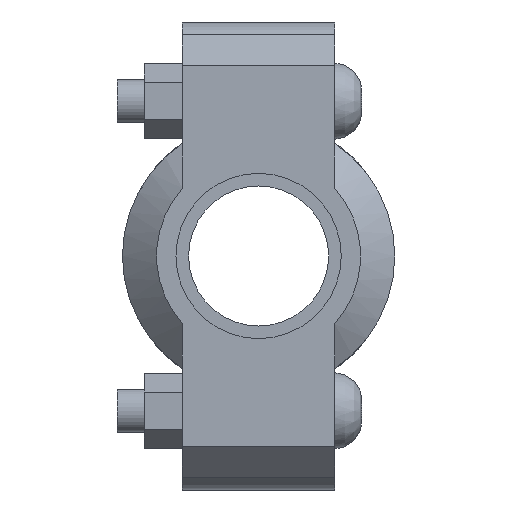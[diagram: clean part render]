
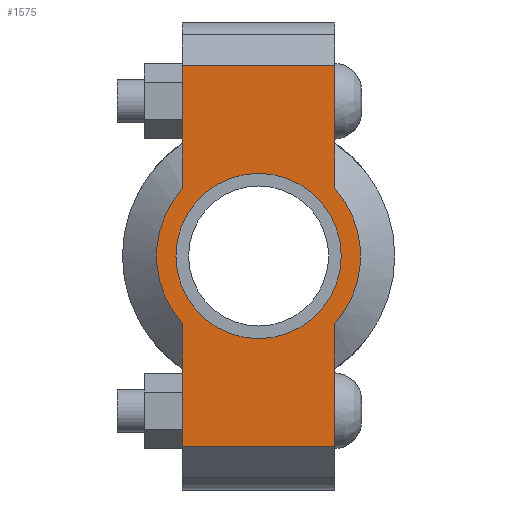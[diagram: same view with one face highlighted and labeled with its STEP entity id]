
A CAD part, left-side view. The second image highlights one B-rep face of the part: STEP entity #1575.
In plain terms, the highlighted planar face has unit normal (-1, 0, 0) as drawn and (0, 0, 1) by its records, which use the part's own axes.
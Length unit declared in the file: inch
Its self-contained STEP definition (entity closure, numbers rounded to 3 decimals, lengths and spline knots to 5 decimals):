
#186=LINE('',#2707,#281);
#201=LINE('',#2766,#296);
#209=LINE('',#2796,#304);
#211=LINE('',#2799,#306);
#212=LINE('',#2804,#307);
#213=LINE('',#2805,#308);
#281=VECTOR('',#2181,0.3937);
#296=VECTOR('',#2216,0.3937);
#304=VECTOR('',#2236,0.3937);
#306=VECTOR('',#2240,0.3937);
#307=VECTOR('',#2245,0.3937);
#308=VECTOR('',#2246,0.3937);
#368=FACE_BOUND('',#527,.T.);
#428=FACE_OUTER_BOUND('',#526,.T.);
#526=EDGE_LOOP('',(#1270,#1271,#1272,#1273,#1274,#1275,#1276,#1277));
#527=EDGE_LOOP('',(#1278));
#632=CIRCLE('',#1838,1.172);
#633=CIRCLE('',#1839,1.172);
#634=CIRCLE('',#1840,0.95);
#741=VERTEX_POINT('',#2704);
#742=VERTEX_POINT('',#2706);
#763=VERTEX_POINT('',#2761);
#764=VERTEX_POINT('',#2765);
#773=VERTEX_POINT('',#2791);
#774=VERTEX_POINT('',#2795);
#775=VERTEX_POINT('',#2801);
#776=VERTEX_POINT('',#2803);
#777=VERTEX_POINT('',#2807);
#911=EDGE_CURVE('',#742,#741,#186,.T.);
#936=EDGE_CURVE('',#764,#763,#201,.T.);
#949=EDGE_CURVE('',#774,#773,#209,.T.);
#951=EDGE_CURVE('',#774,#741,#211,.T.);
#952=EDGE_CURVE('',#773,#775,#632,.T.);
#953=EDGE_CURVE('',#775,#776,#212,.T.);
#954=EDGE_CURVE('',#764,#776,#213,.T.);
#955=EDGE_CURVE('',#763,#742,#633,.T.);
#956=EDGE_CURVE('',#777,#777,#634,.T.);
#1270=ORIENTED_EDGE('',*,*,#951,.F.);
#1271=ORIENTED_EDGE('',*,*,#949,.T.);
#1272=ORIENTED_EDGE('',*,*,#952,.T.);
#1273=ORIENTED_EDGE('',*,*,#953,.T.);
#1274=ORIENTED_EDGE('',*,*,#954,.F.);
#1275=ORIENTED_EDGE('',*,*,#936,.T.);
#1276=ORIENTED_EDGE('',*,*,#955,.T.);
#1277=ORIENTED_EDGE('',*,*,#911,.T.);
#1278=ORIENTED_EDGE('',*,*,#956,.T.);
#1427=PLANE('',#1837);
#1575=ADVANCED_FACE('',(#428,#368),#1427,.T.);
#1837=AXIS2_PLACEMENT_3D('',#2800,#2241,#2242);
#1838=AXIS2_PLACEMENT_3D('',#2802,#2243,#2244);
#1839=AXIS2_PLACEMENT_3D('',#2806,#2247,#2248);
#1840=AXIS2_PLACEMENT_3D('',#2808,#2249,#2250);
#2181=DIRECTION('',(1.,0.,0.));
#2216=DIRECTION('',(1.,0.,0.));
#2236=DIRECTION('',(-1.,0.,0.));
#2240=DIRECTION('',(0.,-1.,0.));
#2241=DIRECTION('center_axis',(0.,0.,1.));
#2242=DIRECTION('ref_axis',(-1.,0.,0.));
#2243=DIRECTION('center_axis',(0.,0.,1.));
#2244=DIRECTION('ref_axis',(1.,0.,0.));
#2245=DIRECTION('',(-1.,0.,0.));
#2246=DIRECTION('',(0.,1.,0.));
#2247=DIRECTION('center_axis',(0.,0.,1.));
#2248=DIRECTION('ref_axis',(1.,0.,0.));
#2249=DIRECTION('center_axis',(0.,0.,-1.));
#2250=DIRECTION('ref_axis',(1.,0.,0.));
#2704=CARTESIAN_POINT('',(2.19,-0.875,0.94));
#2706=CARTESIAN_POINT('',(0.77972,-0.875,0.94));
#2707=CARTESIAN_POINT('',(-2.69,-0.875,0.94));
#2761=CARTESIAN_POINT('',(-0.77972,-0.875,0.94));
#2765=CARTESIAN_POINT('',(-2.19,-0.875,0.94));
#2766=CARTESIAN_POINT('',(-2.69,-0.875,0.94));
#2791=CARTESIAN_POINT('',(0.77972,0.875,0.94));
#2795=CARTESIAN_POINT('',(2.19,0.875,0.94));
#2796=CARTESIAN_POINT('',(2.69,0.875,0.94));
#2799=CARTESIAN_POINT('',(2.19,-0.4375,0.94));
#2800=CARTESIAN_POINT('Origin',(0.,0.,
0.94));
#2801=CARTESIAN_POINT('',(-0.77972,0.875,0.94));
#2802=CARTESIAN_POINT('Origin',(0.,0.,0.94));
#2803=CARTESIAN_POINT('',(-2.19,0.875,0.94));
#2804=CARTESIAN_POINT('',(2.69,0.875,0.94));
#2805=CARTESIAN_POINT('',(-2.19,0.4375,0.94));
#2806=CARTESIAN_POINT('Origin',(0.,0.,0.94));
#2807=CARTESIAN_POINT('',(-0.95,0.,0.94));
#2808=CARTESIAN_POINT('Origin',(0.,0.,0.94));
